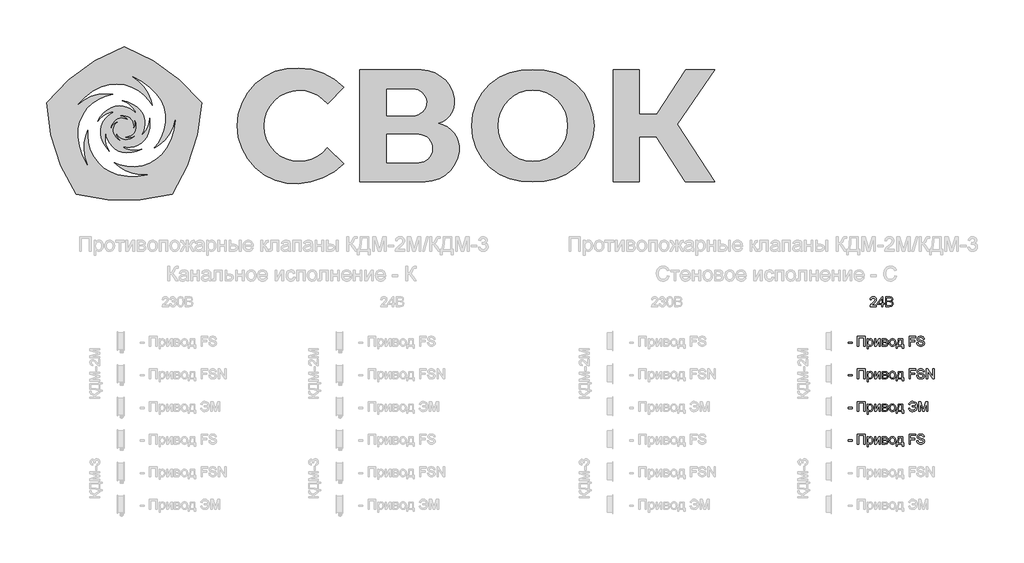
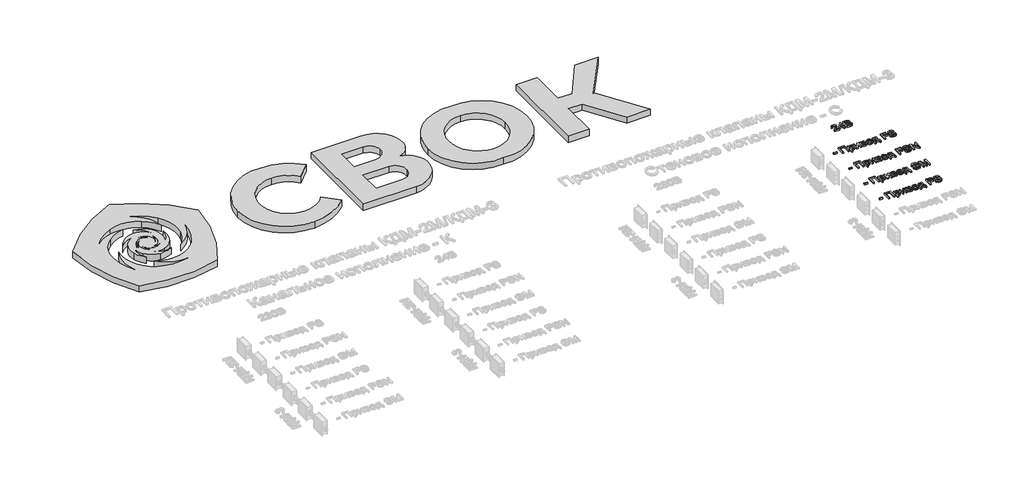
# One storey, part 23 of 23: 6 proxies.
"""IFC4 building model written with IfcOpenShell, lengths in millimetres."""

from ifc_helpers import new_model, si_unit, origin, origin_with_axes, place, context, project, spatial, polyline, outline, extrude, transform, mapped, element, save
from components import generic_models_e413d29a

model = new_model("IFC4")

# Units and contexts
model_context = context("Model", 3, world=origin())
ifc_project = project(units=[si_unit("LENGTHUNIT", "METRE", prefix="MILLI")], contexts=[model_context])

# Site, building, storey
site = spatial("IfcSite", under=ifc_project)
building = spatial("IfcBuilding", under=site)
storey = spatial("IfcBuildingStorey", under=building, Name="Этаж 01", Elevation=0.0)

# Proxies
placement = place(None, origin())
element("IfcBuildingElementProxy", 1, Name="300 мм Arial", ObjectType="300 мм Arial", at=placement, inside=storey, context=model_context, shape_type="SweptSolid", body=[
    extrude(outline(polyline([(24504.7738082, -4434.3206311), (24504.7738082, -4396.6495148), (24622.4960467, -4396.6495148), (24622.4960467, -4434.3206311), (24504.7738082, -4434.3206311)])), origin_with_axes(), (0.0, 0.0, 1.0), 50.0),
    extrude(outline(polyline([(24787.3071805, -4222.4206019), (25022.7516574, -4222.4206019), (25022.7516574, -4523.7895324), (24985.0805411, -4523.7895324), (24985.0805411, -4260.0917182), (24824.9782968, -4260.0917182), (24824.9782968, -4523.7895324), (24787.3071805, -4523.7895324), (24787.3071805, -4222.4206019)])), origin_with_axes(), (0.0, 0.0, 1.0), 50.0),
    extrude(outline(polyline([(25083.9672214, -4608.5495441), (25083.9672214, -4302.4717241), (25121.6383378, -4302.4717241), (25121.6383378, -4339.4070764), (25133.9255964, -4321.1877206), (25147.684383, -4308.173895), (25163.724038, -4300.3655996), (25182.8539017, -4297.7628345), (25208.3297299, -4301.4048663), (25230.6049847, -4312.3309615), (25248.7415671, -4329.8789327), (25261.8013779, -4353.3865922), (25269.6924467, -4381.1432887), (25272.322803, -4411.438371), (25269.3521559, -4443.6556368), (25260.4402145, -4472.469994), (25245.8720875, -4496.4191119), (25225.9328834, -4514.0406595), (25202.7103324, -4524.8839813), (25178.292165, -4528.4984219), (25160.9741201, -4526.0795978), (25145.5138792, -4518.8231254), (25132.2793245, -4507.869439), (25121.6383378, -4494.3589728), (25121.6383378, -4608.5495441), (25083.9672214, -4608.5495441)]), holes=[polyline([(25121.6383378, -4414.8964618), (25125.7126308, -4448.668029), (25137.9355101, -4472.286053), (25155.970925, -4486.1919925), (25177.4828246, -4490.8273056), (25199.3442122, -4486.0264456), (25217.8394795, -4471.6238655), (25230.4486349, -4447.1413187), (25234.6516867, -4412.1005586), (25230.5498024, -4378.5129325), (25218.2441497, -4354.5638146), (25200.236326, -4340.2164168), (25179.027929, -4335.4339508), (25157.7367585, -4340.5199194), (25139.0391561, -4355.7778252), (25125.9885423, -4380.7294215), (25121.6383378, -4414.8964618)])]), origin_with_axes(), (0.0, 0.0, 1.0), 50.0),
    extrude(outline(polyline([(25314.7028088, -4302.4717241), (25352.3739251, -4302.4717241), (25352.3739251, -4471.2559835), (25444.9330351, -4302.4717241), (25493.6406113, -4302.4717241), (25493.6406113, -4523.7895324), (25455.969495, -4523.7895324), (25455.969495, -4356.0353426), (25363.9989962, -4523.7895324), (25314.7028088, -4523.7895324), (25314.7028088, -4302.4717241)])), origin_with_axes(), (0.0, 0.0, 1.0), 50.0),
    extrude(outline(polyline([(25550.1472857, -4302.4717241), (25633.1414638, -4302.4717241), (25659.8221055, -4303.7317199), (25678.6484666, -4307.5117074), (25692.4992238, -4314.6486181), (25704.2530535, -4325.9793836), (25712.2820781, -4340.7406486), (25714.9584196, -4358.1690581), (25713.3397388, -4372.2129533), (25708.4836965, -4384.325468), (25700.3718985, -4394.5617845), (25688.9859507, -4402.9770852), (25702.9286783, -4410.8037746), (25714.296232, -4423.3945359), (25721.856207, -4439.7560876), (25724.3761986, -4458.8951484), (25717.993446, -4487.6083381), (25702.8183137, -4507.8234538), (25678.7956194, -4519.7980127), (25645.8701809, -4523.7895324), (25550.1472857, -4523.7895324), (25550.1472857, -4302.4717241)]), holes=[polyline([(25587.818402, -4486.1184161), (25634.0243806, -4486.1184161), (25659.2059032, -4484.4169618), (25675.0064349, -4479.3125992), (25683.4861149, -4470.0327758), (25686.7050823, -4455.8049397), (25685.0955986, -4446.3779635), (25680.2671474, -4437.6683573), (25672.8543252, -4430.8533433), (25663.4917284, -4427.110144), (25630.3455607, -4424.9028521), (25587.818402, -4424.9028521), (25587.818402, -4486.1184161)]), polyline([(25587.818402, -4387.2317358), (25625.04806, -4387.2317358), (25655.7662065, -4385.3187494), (25670.7022156, -4377.6668039), (25675.6410313, -4371.3392336), (25677.2873033, -4363.8344409), (25674.3994296, -4352.5956459), (25665.7358086, -4345.3667647), (25650.0824297, -4341.4488215), (25626.2252823, -4340.1428404), (25587.818402, -4340.1428404), (25587.818402, -4387.2317358)])]), origin_with_axes(), (0.0, 0.0, 1.0), 50.0),
    extrude(outline(polyline([(25762.047315, -4413.1306282), (25764.0844615, -4384.4680223), (25770.1959011, -4359.7693448), (25780.3816339, -4339.0345959), (25794.6416597, -4322.2637754), (25808.9982546, -4311.5446138), (25824.8447715, -4303.8880698), (25842.1812106, -4299.2941433), (25861.0075717, -4297.7628345), (25881.7906051, -4299.6275364), (25900.5824773, -4305.221642), (25917.3831882, -4314.5451513), (25932.1927377, -4327.5980643), (25944.2799605, -4343.9389227), (25952.9136911, -4363.126268), (25958.0939294, -4385.1601003), (25959.8206756, -4410.0404195), (25956.767255, -4448.0978119), (25947.6069933, -4477.068519), (25932.606605, -4498.7643596), (25912.0328044, -4514.9971527), (25887.5962429, -4525.1231046), (25861.0075717, -4528.4984219), (25839.9210355, -4526.6406178), (25820.9544194, -4521.0672056), (25804.1077233, -4511.7781852), (25789.3809472, -4498.7735567), (25777.4224831, -4482.2740492), (25768.880723, -4462.500392), (25763.755667, -4439.452585), (25762.047315, -4413.1306282)]), holes=[polyline([(25799.7184313, -4413.0570518), (25804.0778329, -4447.1505157), (25817.1560378, -4471.4399245), (25836.8377246, -4485.9804603), (25861.0075717, -4490.8273056), (25885.0670541, -4485.9528692), (25904.7119527, -4471.3295599), (25917.7901576, -4446.7182544), (25922.1495593, -4411.8798294), (25917.7625665, -4378.7796469), (25904.6015881, -4354.821332), (25884.9290984, -4340.2807961), (25861.0075717, -4335.4339508), (25836.8377246, -4340.262402), (25817.1560378, -4354.7477556), (25804.0778329, -4378.981982), (25799.7184313, -4413.0570518)])]), origin_with_axes(), (0.0, 0.0, 1.0), 50.0),
    extrude(outline(polyline([(26035.1629082, -4302.4717241), (26176.4295943, -4302.4717241), (26176.4295943, -4486.1184161), (26204.6829316, -4486.1184161), (26204.6829316, -4585.0050964), (26167.0118152, -4585.0050964), (26167.0118152, -4523.7895324), (26011.6184605, -4523.7895324), (26011.6184605, -4585.0050964), (25973.9473442, -4585.0050964), (25973.9473442, -4486.1184161), (25997.4917919, -4486.1184161), (26014.6075017, -4455.1887373), (26026.5912577, -4414.2710624), (26033.4430598, -4363.3653913), (26035.1629082, -4302.4717241)]), holes=[polyline([(26068.1251349, -4340.1428404), (26065.0349262, -4386.2660455), (26059.2959671, -4425.9697099), (26050.9082576, -4459.2538334), (26039.8717977, -4486.1184161), (26138.758478, -4486.1184161), (26138.758478, -4340.1428404), (26068.1251349, -4340.1428404)])]), origin_with_axes(), (0.0, 0.0, 1.0), 50.0),
    extrude(outline(polyline([(26369.4940654, -4523.7895324), (26369.4940654, -4222.4206019), (26571.9763155, -4222.4206019), (26571.9763155, -4260.0917182), (26407.1651817, -4260.0917182), (26407.1651817, -4349.5606195), (26548.4318678, -4349.5606195), (26548.4318678, -4387.2317358), (26407.1651817, -4387.2317358), (26407.1651817, -4523.7895324), (26369.4940654, -4523.7895324)])), origin_with_axes(), (0.0, 0.0, 1.0), 50.0),
    extrude(outline(polyline([(26609.6474318, -4420.1939625), (26647.3185481, -4420.1939625), (26651.6411616, -4441.0988569), (26659.458654, -4457.901867), (26671.6539421, -4471.2375894), (26689.1099428, -4481.7406203), (26710.4470985, -4488.5556343), (26734.2858518, -4490.8273056), (26755.2735196, -4489.1074573), (26773.6492253, -4483.9479123), (26788.539249, -4475.780932), (26799.0698712, -4465.0387777), (26805.3330621, -4452.7055339), (26807.4207924, -4439.7652847), (26805.857294, -4427.1561293), (26801.1667985, -4416.2576252), (26791.6386549, -4406.9594078), (26775.5622117, -4399.1511124), (26720.7110062, -4384.7669264), (26684.7045559, -4375.2479798), (26661.665946, -4366.1888856), (26642.9131613, -4353.5153509), (26629.6234242, -4338.1562776), (26621.7047642, -4320.4427595), (26619.0652109, -4300.7058905), (26622.3301636, -4278.6421678), (26632.1250217, -4258.0683673), (26648.1922679, -4240.6307607), (26670.2743846, -4227.97562), (26696.7802824, -4220.2776893), (26726.1188715, -4217.7117124), (26757.9038759, -4220.3972509), (26785.7157547, -4228.4538666), (26808.5612266, -4241.7160126), (26825.4470102, -4260.0181418), (26836.1339822, -4282.2198202), (26840.3830192, -4307.1806136), (26802.7119029, -4307.1806136), (26795.7957214, -4284.7030237), (26781.3747472, -4268.4794277), (26758.841975, -4258.6569784), (26727.5903995, -4255.3828287), (26695.60306, -4258.6201902), (26673.658899, -4268.3322749), (26660.9669702, -4282.6244904), (26656.7363272, -4299.6022445), (26659.7345655, -4314.078401), (26668.7292803, -4325.7218662), (26689.9928596, -4336.1329266), (26730.2391499, -4346.7647163), (26771.7730271, -4356.8630771), (26796.8993674, -4365.6738508), (26818.3744789, -4379.340667), (26833.3564731, -4396.2080564), (26842.1580498, -4416.0920783), (26845.0919088, -4438.8087915), (26841.7165914, -4462.0313424), (26831.5906395, -4483.8743359), (26815.1279202, -4502.6731058), (26792.7423008, -4516.7629863), (26765.8225358, -4525.564563), (26735.7573798, -4528.4984219), (26698.8496186, -4525.3346367), (26668.4717629, -4515.8432813), (26644.2743246, -4499.9875673), (26625.907816, -4477.7307066), (26614.1171981, -4450.6178035), (26609.6474318, -4420.1939625)])), origin_with_axes(), (0.0, 0.0, 1.0), 50.0),
])
element("IfcBuildingElementProxy", 2, Name="300 мм Arial", ObjectType="300 мм Arial", at=placement, inside=storey, context=model_context, shape_type="SweptSolid", body=[
    extrude(outline(polyline([(24504.7738082, -5434.3206311), (24504.7738082, -5396.6495148), (24622.4960467, -5396.6495148), (24622.4960467, -5434.3206311), (24504.7738082, -5434.3206311)])), origin_with_axes(), (0.0, 0.0, 1.0), 50.0),
    extrude(outline(polyline([(24787.3071805, -5222.4206019), (25022.7516574, -5222.4206019), (25022.7516574, -5523.7895324), (24985.0805411, -5523.7895324), (24985.0805411, -5260.0917182), (24824.9782968, -5260.0917182), (24824.9782968, -5523.7895324), (24787.3071805, -5523.7895324), (24787.3071805, -5222.4206019)])), origin_with_axes(), (0.0, 0.0, 1.0), 50.0),
    extrude(outline(polyline([(25083.9672214, -5608.5495441), (25083.9672214, -5302.4717241), (25121.6383378, -5302.4717241), (25121.6383378, -5339.4070764), (25133.9255964, -5321.1877206), (25147.684383, -5308.173895), (25163.724038, -5300.3655996), (25182.8539017, -5297.7628345), (25208.3297299, -5301.4048663), (25230.6049847, -5312.3309615), (25248.7415671, -5329.8789327), (25261.8013779, -5353.3865922), (25269.6924467, -5381.1432887), (25272.322803, -5411.438371), (25269.3521559, -5443.6556368), (25260.4402145, -5472.469994), (25245.8720875, -5496.4191119), (25225.9328834, -5514.0406595), (25202.7103324, -5524.8839813), (25178.292165, -5528.4984219), (25160.9741201, -5526.0795978), (25145.5138792, -5518.8231254), (25132.2793245, -5507.869439), (25121.6383378, -5494.3589728), (25121.6383378, -5608.5495441), (25083.9672214, -5608.5495441)]), holes=[polyline([(25121.6383378, -5414.8964618), (25125.7126308, -5448.668029), (25137.9355101, -5472.286053), (25155.970925, -5486.1919925), (25177.4828246, -5490.8273056), (25199.3442122, -5486.0264456), (25217.8394795, -5471.6238655), (25230.4486349, -5447.1413187), (25234.6516867, -5412.1005586), (25230.5498024, -5378.5129325), (25218.2441497, -5354.5638146), (25200.236326, -5340.2164168), (25179.027929, -5335.4339508), (25157.7367585, -5340.5199194), (25139.0391561, -5355.7778252), (25125.9885423, -5380.7294215), (25121.6383378, -5414.8964618)])]), origin_with_axes(), (0.0, 0.0, 1.0), 50.0),
    extrude(outline(polyline([(25314.7028088, -5302.4717241), (25352.3739251, -5302.4717241), (25352.3739251, -5471.2559835), (25444.9330351, -5302.4717241), (25493.6406113, -5302.4717241), (25493.6406113, -5523.7895324), (25455.969495, -5523.7895324), (25455.969495, -5356.0353426), (25363.9989962, -5523.7895324), (25314.7028088, -5523.7895324), (25314.7028088, -5302.4717241)])), origin_with_axes(), (0.0, 0.0, 1.0), 50.0),
    extrude(outline(polyline([(25550.1472857, -5302.4717241), (25633.1414638, -5302.4717241), (25659.8221055, -5303.7317199), (25678.6484666, -5307.5117074), (25692.4992238, -5314.6486181), (25704.2530535, -5325.9793836), (25712.2820781, -5340.7406486), (25714.9584196, -5358.1690581), (25713.3397388, -5372.2129533), (25708.4836965, -5384.325468), (25700.3718985, -5394.5617845), (25688.9859507, -5402.9770852), (25702.9286783, -5410.8037746), (25714.296232, -5423.3945359), (25721.856207, -5439.7560876), (25724.3761986, -5458.8951484), (25717.993446, -5487.6083381), (25702.8183137, -5507.8234538), (25678.7956194, -5519.7980127), (25645.8701809, -5523.7895324), (25550.1472857, -5523.7895324), (25550.1472857, -5302.4717241)]), holes=[polyline([(25587.818402, -5486.1184161), (25634.0243806, -5486.1184161), (25659.2059032, -5484.4169618), (25675.0064349, -5479.3125992), (25683.4861149, -5470.0327758), (25686.7050823, -5455.8049397), (25685.0955986, -5446.3779635), (25680.2671474, -5437.6683573), (25672.8543252, -5430.8533433), (25663.4917284, -5427.110144), (25630.3455607, -5424.9028521), (25587.818402, -5424.9028521), (25587.818402, -5486.1184161)]), polyline([(25587.818402, -5387.2317358), (25625.04806, -5387.2317358), (25655.7662065, -5385.3187494), (25670.7022156, -5377.6668039), (25675.6410313, -5371.3392336), (25677.2873033, -5363.8344409), (25674.3994296, -5352.5956459), (25665.7358086, -5345.3667647), (25650.0824297, -5341.4488215), (25626.2252823, -5340.1428404), (25587.818402, -5340.1428404), (25587.818402, -5387.2317358)])]), origin_with_axes(), (0.0, 0.0, 1.0), 50.0),
    extrude(outline(polyline([(25762.047315, -5413.1306282), (25764.0844615, -5384.4680223), (25770.1959011, -5359.7693448), (25780.3816339, -5339.0345959), (25794.6416597, -5322.2637754), (25808.9982546, -5311.5446138), (25824.8447715, -5303.8880698), (25842.1812106, -5299.2941433), (25861.0075717, -5297.7628345), (25881.7906051, -5299.6275364), (25900.5824773, -5305.221642), (25917.3831882, -5314.5451513), (25932.1927377, -5327.5980643), (25944.2799605, -5343.9389227), (25952.9136911, -5363.126268), (25958.0939294, -5385.1601003), (25959.8206756, -5410.0404195), (25956.767255, -5448.0978119), (25947.6069933, -5477.068519), (25932.606605, -5498.7643596), (25912.0328044, -5514.9971527), (25887.5962429, -5525.1231046), (25861.0075717, -5528.4984219), (25839.9210355, -5526.6406178), (25820.9544194, -5521.0672056), (25804.1077233, -5511.7781852), (25789.3809472, -5498.7735567), (25777.4224831, -5482.2740492), (25768.880723, -5462.500392), (25763.755667, -5439.452585), (25762.047315, -5413.1306282)]), holes=[polyline([(25799.7184313, -5413.0570518), (25804.0778329, -5447.1505157), (25817.1560378, -5471.4399245), (25836.8377246, -5485.9804603), (25861.0075717, -5490.8273056), (25885.0670541, -5485.9528692), (25904.7119527, -5471.3295599), (25917.7901576, -5446.7182544), (25922.1495593, -5411.8798294), (25917.7625665, -5378.7796469), (25904.6015881, -5354.821332), (25884.9290984, -5340.2807961), (25861.0075717, -5335.4339508), (25836.8377246, -5340.262402), (25817.1560378, -5354.7477556), (25804.0778329, -5378.981982), (25799.7184313, -5413.0570518)])]), origin_with_axes(), (0.0, 0.0, 1.0), 50.0),
    extrude(outline(polyline([(26035.1629082, -5302.4717241), (26176.4295943, -5302.4717241), (26176.4295943, -5486.1184161), (26204.6829316, -5486.1184161), (26204.6829316, -5585.0050964), (26167.0118152, -5585.0050964), (26167.0118152, -5523.7895324), (26011.6184605, -5523.7895324), (26011.6184605, -5585.0050964), (25973.9473442, -5585.0050964), (25973.9473442, -5486.1184161), (25997.4917919, -5486.1184161), (26014.6075017, -5455.1887373), (26026.5912577, -5414.2710624), (26033.4430598, -5363.3653913), (26035.1629082, -5302.4717241)]), holes=[polyline([(26068.1251349, -5340.1428404), (26065.0349262, -5386.2660455), (26059.2959671, -5425.9697099), (26050.9082576, -5459.2538334), (26039.8717977, -5486.1184161), (26138.758478, -5486.1184161), (26138.758478, -5340.1428404), (26068.1251349, -5340.1428404)])]), origin_with_axes(), (0.0, 0.0, 1.0), 50.0),
    extrude(outline(polyline([(26369.4940654, -5523.7895324), (26369.4940654, -5222.4206019), (26571.9763155, -5222.4206019), (26571.9763155, -5260.0917182), (26407.1651817, -5260.0917182), (26407.1651817, -5349.5606195), (26548.4318678, -5349.5606195), (26548.4318678, -5387.2317358), (26407.1651817, -5387.2317358), (26407.1651817, -5523.7895324), (26369.4940654, -5523.7895324)])), origin_with_axes(), (0.0, 0.0, 1.0), 50.0),
    extrude(outline(polyline([(26609.6474318, -5420.1939625), (26647.3185481, -5420.1939625), (26651.6411616, -5441.0988569), (26659.458654, -5457.901867), (26671.6539421, -5471.2375894), (26689.1099428, -5481.7406203), (26710.4470985, -5488.5556343), (26734.2858518, -5490.8273056), (26755.2735196, -5489.1074573), (26773.6492253, -5483.9479123), (26788.539249, -5475.780932), (26799.0698712, -5465.0387777), (26805.3330621, -5452.7055339), (26807.4207924, -5439.7652847), (26805.857294, -5427.1561293), (26801.1667985, -5416.2576252), (26791.6386549, -5406.9594078), (26775.5622117, -5399.1511124), (26720.7110062, -5384.7669264), (26684.7045559, -5375.2479798), (26661.665946, -5366.1888856), (26642.9131613, -5353.5153509), (26629.6234242, -5338.1562776), (26621.7047642, -5320.4427595), (26619.0652109, -5300.7058905), (26622.3301636, -5278.6421678), (26632.1250217, -5258.0683673), (26648.1922679, -5240.6307607), (26670.2743846, -5227.97562), (26696.7802824, -5220.2776893), (26726.1188715, -5217.7117124), (26757.9038759, -5220.3972509), (26785.7157547, -5228.4538666), (26808.5612266, -5241.7160126), (26825.4470102, -5260.0181418), (26836.1339822, -5282.2198202), (26840.3830192, -5307.1806136), (26802.7119029, -5307.1806136), (26795.7957214, -5284.7030237), (26781.3747472, -5268.4794277), (26758.841975, -5258.6569784), (26727.5903995, -5255.3828287), (26695.60306, -5258.6201902), (26673.658899, -5268.3322749), (26660.9669702, -5282.6244904), (26656.7363272, -5299.6022445), (26659.7345655, -5314.078401), (26668.7292803, -5325.7218662), (26689.9928596, -5336.1329266), (26730.2391499, -5346.7647163), (26771.7730271, -5356.8630771), (26796.8993674, -5365.6738508), (26818.3744789, -5379.340667), (26833.3564731, -5396.2080564), (26842.1580498, -5416.0920783), (26845.0919088, -5438.8087915), (26841.7165914, -5462.0313424), (26831.5906395, -5483.8743359), (26815.1279202, -5502.6731058), (26792.7423008, -5516.7629863), (26765.8225358, -5525.564563), (26735.7573798, -5528.4984219), (26698.8496186, -5525.3346367), (26668.4717629, -5515.8432813), (26644.2743246, -5499.9875673), (26625.907816, -5477.7307066), (26614.1171981, -5450.6178035), (26609.6474318, -5420.1939625)])), origin_with_axes(), (0.0, 0.0, 1.0), 50.0),
    extrude(outline(polyline([(26901.5985832, -5523.7895324), (26901.5985832, -5222.4206019), (26941.9184499, -5222.4206019), (27099.3719438, -5461.1760168), (27099.3719438, -5222.4206019), (27137.0430601, -5222.4206019), (27137.0430601, -5523.7895324), (27096.7231935, -5523.7895324), (26939.2696995, -5284.9605411), (26939.2696995, -5523.7895324), (26901.5985832, -5523.7895324)])), origin_with_axes(), (0.0, 0.0, 1.0), 50.0),
])
element("IfcBuildingElementProxy", 3, Name="300 мм Arial", ObjectType="300 мм Arial", at=placement, inside=storey, context=model_context, shape_type="SweptSolid", body=[
    extrude(outline(polyline([(24504.7738082, -6434.3206311), (24504.7738082, -6396.6495148), (24622.4960467, -6396.6495148), (24622.4960467, -6434.3206311), (24504.7738082, -6434.3206311)])), origin_with_axes(), (0.0, 0.0, 1.0), 50.0),
    extrude(outline(polyline([(24787.3071805, -6222.4206019), (25022.7516574, -6222.4206019), (25022.7516574, -6523.7895324), (24985.0805411, -6523.7895324), (24985.0805411, -6260.0917182), (24824.9782968, -6260.0917182), (24824.9782968, -6523.7895324), (24787.3071805, -6523.7895324), (24787.3071805, -6222.4206019)])), origin_with_axes(), (0.0, 0.0, 1.0), 50.0),
    extrude(outline(polyline([(25083.9672214, -6608.5495441), (25083.9672214, -6302.4717241), (25121.6383378, -6302.4717241), (25121.6383378, -6339.4070764), (25133.9255964, -6321.1877206), (25147.684383, -6308.173895), (25163.724038, -6300.3655996), (25182.8539017, -6297.7628345), (25208.3297299, -6301.4048663), (25230.6049847, -6312.3309615), (25248.7415671, -6329.8789327), (25261.8013779, -6353.3865922), (25269.6924467, -6381.1432887), (25272.322803, -6411.438371), (25269.3521559, -6443.6556368), (25260.4402145, -6472.469994), (25245.8720875, -6496.4191119), (25225.9328834, -6514.0406595), (25202.7103324, -6524.8839813), (25178.292165, -6528.4984219), (25160.9741201, -6526.0795978), (25145.5138792, -6518.8231254), (25132.2793245, -6507.869439), (25121.6383378, -6494.3589728), (25121.6383378, -6608.5495441), (25083.9672214, -6608.5495441)]), holes=[polyline([(25121.6383378, -6414.8964618), (25125.7126308, -6448.668029), (25137.9355101, -6472.286053), (25155.970925, -6486.1919925), (25177.4828246, -6490.8273056), (25199.3442122, -6486.0264456), (25217.8394795, -6471.6238655), (25230.4486349, -6447.1413187), (25234.6516867, -6412.1005586), (25230.5498024, -6378.5129325), (25218.2441497, -6354.5638146), (25200.236326, -6340.2164168), (25179.027929, -6335.4339508), (25157.7367585, -6340.5199194), (25139.0391561, -6355.7778252), (25125.9885423, -6380.7294215), (25121.6383378, -6414.8964618)])]), origin_with_axes(), (0.0, 0.0, 1.0), 50.0),
    extrude(outline(polyline([(25314.7028088, -6302.4717241), (25352.3739251, -6302.4717241), (25352.3739251, -6471.2559835), (25444.9330351, -6302.4717241), (25493.6406113, -6302.4717241), (25493.6406113, -6523.7895324), (25455.969495, -6523.7895324), (25455.969495, -6356.0353426), (25363.9989962, -6523.7895324), (25314.7028088, -6523.7895324), (25314.7028088, -6302.4717241)])), origin_with_axes(), (0.0, 0.0, 1.0), 50.0),
    extrude(outline(polyline([(25550.1472857, -6302.4717241), (25633.1414638, -6302.4717241), (25659.8221055, -6303.7317199), (25678.6484666, -6307.5117074), (25692.4992238, -6314.6486181), (25704.2530535, -6325.9793836), (25712.2820781, -6340.7406486), (25714.9584196, -6358.1690581), (25713.3397388, -6372.2129533), (25708.4836965, -6384.325468), (25700.3718985, -6394.5617845), (25688.9859507, -6402.9770852), (25702.9286783, -6410.8037746), (25714.296232, -6423.3945359), (25721.856207, -6439.7560876), (25724.3761986, -6458.8951484), (25717.993446, -6487.6083381), (25702.8183137, -6507.8234538), (25678.7956194, -6519.7980127), (25645.8701809, -6523.7895324), (25550.1472857, -6523.7895324), (25550.1472857, -6302.4717241)]), holes=[polyline([(25587.818402, -6486.1184161), (25634.0243806, -6486.1184161), (25659.2059032, -6484.4169618), (25675.0064349, -6479.3125992), (25683.4861149, -6470.0327758), (25686.7050823, -6455.8049397), (25685.0955986, -6446.3779635), (25680.2671474, -6437.6683573), (25672.8543252, -6430.8533433), (25663.4917284, -6427.110144), (25630.3455607, -6424.9028521), (25587.818402, -6424.9028521), (25587.818402, -6486.1184161)]), polyline([(25587.818402, -6387.2317358), (25625.04806, -6387.2317358), (25655.7662065, -6385.3187494), (25670.7022156, -6377.6668039), (25675.6410313, -6371.3392336), (25677.2873033, -6363.8344409), (25674.3994296, -6352.5956459), (25665.7358086, -6345.3667647), (25650.0824297, -6341.4488215), (25626.2252823, -6340.1428404), (25587.818402, -6340.1428404), (25587.818402, -6387.2317358)])]), origin_with_axes(), (0.0, 0.0, 1.0), 50.0),
    extrude(outline(polyline([(25762.047315, -6413.1306282), (25764.0844615, -6384.4680223), (25770.1959011, -6359.7693448), (25780.3816339, -6339.0345959), (25794.6416597, -6322.2637754), (25808.9982546, -6311.5446138), (25824.8447715, -6303.8880698), (25842.1812106, -6299.2941433), (25861.0075717, -6297.7628345), (25881.7906051, -6299.6275364), (25900.5824773, -6305.221642), (25917.3831882, -6314.5451513), (25932.1927377, -6327.5980643), (25944.2799605, -6343.9389227), (25952.9136911, -6363.126268), (25958.0939294, -6385.1601003), (25959.8206756, -6410.0404195), (25956.767255, -6448.0978119), (25947.6069933, -6477.068519), (25932.606605, -6498.7643596), (25912.0328044, -6514.9971527), (25887.5962429, -6525.1231046), (25861.0075717, -6528.4984219), (25839.9210355, -6526.6406178), (25820.9544194, -6521.0672056), (25804.1077233, -6511.7781852), (25789.3809472, -6498.7735567), (25777.4224831, -6482.2740492), (25768.880723, -6462.500392), (25763.755667, -6439.452585), (25762.047315, -6413.1306282)]), holes=[polyline([(25799.7184313, -6413.0570518), (25804.0778329, -6447.1505157), (25817.1560378, -6471.4399245), (25836.8377246, -6485.9804603), (25861.0075717, -6490.8273056), (25885.0670541, -6485.9528692), (25904.7119527, -6471.3295599), (25917.7901576, -6446.7182544), (25922.1495593, -6411.8798294), (25917.7625665, -6378.7796469), (25904.6015881, -6354.821332), (25884.9290984, -6340.2807961), (25861.0075717, -6335.4339508), (25836.8377246, -6340.262402), (25817.1560378, -6354.7477556), (25804.0778329, -6378.981982), (25799.7184313, -6413.0570518)])]), origin_with_axes(), (0.0, 0.0, 1.0), 50.0),
    extrude(outline(polyline([(26035.1629082, -6302.4717241), (26176.4295943, -6302.4717241), (26176.4295943, -6486.1184161), (26204.6829316, -6486.1184161), (26204.6829316, -6585.0050964), (26167.0118152, -6585.0050964), (26167.0118152, -6523.7895324), (26011.6184605, -6523.7895324), (26011.6184605, -6585.0050964), (25973.9473442, -6585.0050964), (25973.9473442, -6486.1184161), (25997.4917919, -6486.1184161), (26014.6075017, -6455.1887373), (26026.5912577, -6414.2710624), (26033.4430598, -6363.3653913), (26035.1629082, -6302.4717241)]), holes=[polyline([(26068.1251349, -6340.1428404), (26065.0349262, -6386.2660455), (26059.2959671, -6425.9697099), (26050.9082576, -6459.2538334), (26039.8717977, -6486.1184161), (26138.758478, -6486.1184161), (26138.758478, -6340.1428404), (26068.1251349, -6340.1428404)])]), origin_with_axes(), (0.0, 0.0, 1.0), 50.0),
    extrude(outline(polyline([(26468.3807457, -6349.5606195), (26581.3940946, -6349.5606195), (26578.6947605, -6329.0121108), (26573.0983556, -6310.7030837), (26564.6048801, -6294.6335383), (26553.2143338, -6280.8034746), (26539.1520445, -6269.681942), (26522.64334, -6261.7379902), (26503.6882202, -6256.9716191), (26482.2866851, -6255.3828287), (26451.8674426, -6259.2088014), (26427.6378147, -6270.6867197), (26409.5978014, -6289.8165834), (26397.7474026, -6316.5983927), (26360.0762863, -6307.1806136), (26366.8637091, -6287.2873947), (26376.1895177, -6269.6934383), (26388.053712, -6254.3987444), (26402.4562922, -6241.4033129), (26419.0799598, -6231.0382377), (26437.6074168, -6223.6346125), (26458.0386631, -6219.1924374), (26480.3736987, -6217.7117124), (26521.4477235, -6223.1471689), (26556.3781189, -6239.4535383), (26584.1256184, -6264.2119966), (26603.6509553, -6295.0037196), (26615.211647, -6330.6054997), (26619.0652109, -6369.7941292), (26617.8925871, -6402.0136942), (26612.0938471, -6431.5707132), (26601.6689911, -6458.4651863), (26586.6180189, -6482.6971135), (26566.9777189, -6502.7351859), (26542.7848792, -6517.0480948), (26514.0394998, -6525.6358401), (26480.7415807, -6528.4984219), (26457.0545788, -6526.9533175), (26435.6576422, -6522.3180044), (26416.5507711, -6514.5924825), (26399.7339654, -6503.7767518), (26385.2072251, -6489.8708124), (26372.9705502, -6472.8746642), (26363.0239408, -6452.7883073), (26355.3673968, -6429.6117416), (26393.0385131, -6420.1939625), (26405.7672301, -6451.0960501), (26425.3385523, -6473.1689698), (26451.7524795, -6486.4127217), (26485.0090119, -6490.8273056), (26504.7182898, -6489.0936617), (26522.5697636, -6483.89273), (26538.5634333, -6475.2245105), (26552.699299, -6463.0890032), (26564.3979464, -6447.9460605), (26573.0799615, -6430.2555351), (26578.7453442, -6410.0174268), (26581.3940946, -6387.2317358), (26468.3807457, -6387.2317358), (26468.3807457, -6349.5606195)])), origin_with_axes(), (0.0, 0.0, 1.0), 50.0),
    extrude(outline(polyline([(26670.8629958, -6523.7895324), (26670.8629958, -6222.4206019), (26735.6838034, -6222.4206019), (26797.3408258, -6434.8356659), (26809.7752372, -6479.2022346), (26823.2397182, -6431.156846), (26883.866671, -6222.4206019), (26948.6874786, -6222.4206019), (26948.6874786, -6523.7895324), (26911.0163623, -6523.7895324), (26911.0163623, -6260.0917182), (26835.3062477, -6523.7895324), (26784.2442268, -6523.7895324), (26708.5341121, -6260.0917182), (26708.5341121, -6523.7895324), (26670.8629958, -6523.7895324)])), origin_with_axes(), (0.0, 0.0, 1.0), 50.0),
])
element("IfcBuildingElementProxy", 4, Name="300 мм Arial", ObjectType="300 мм Arial", at=placement, inside=storey, context=model_context, shape_type="SweptSolid", body=[
    extrude(outline(polyline([(24504.7738082, -7434.3206311), (24504.7738082, -7396.6495148), (24622.4960467, -7396.6495148), (24622.4960467, -7434.3206311), (24504.7738082, -7434.3206311)])), origin_with_axes(), (0.0, 0.0, 1.0), 50.0),
    extrude(outline(polyline([(24787.3071805, -7222.4206019), (25022.7516574, -7222.4206019), (25022.7516574, -7523.7895324), (24985.0805411, -7523.7895324), (24985.0805411, -7260.0917182), (24824.9782968, -7260.0917182), (24824.9782968, -7523.7895324), (24787.3071805, -7523.7895324), (24787.3071805, -7222.4206019)])), origin_with_axes(), (0.0, 0.0, 1.0), 50.0),
    extrude(outline(polyline([(25083.9672214, -7608.5495441), (25083.9672214, -7302.4717241), (25121.6383378, -7302.4717241), (25121.6383378, -7339.4070764), (25133.9255964, -7321.1877206), (25147.684383, -7308.173895), (25163.724038, -7300.3655996), (25182.8539017, -7297.7628345), (25208.3297299, -7301.4048663), (25230.6049847, -7312.3309615), (25248.7415671, -7329.8789327), (25261.8013779, -7353.3865922), (25269.6924467, -7381.1432887), (25272.322803, -7411.438371), (25269.3521559, -7443.6556368), (25260.4402145, -7472.469994), (25245.8720875, -7496.4191119), (25225.9328834, -7514.0406595), (25202.7103324, -7524.8839813), (25178.292165, -7528.4984219), (25160.9741201, -7526.0795978), (25145.5138792, -7518.8231254), (25132.2793245, -7507.869439), (25121.6383378, -7494.3589728), (25121.6383378, -7608.5495441), (25083.9672214, -7608.5495441)]), holes=[polyline([(25121.6383378, -7414.8964618), (25125.7126308, -7448.668029), (25137.9355101, -7472.286053), (25155.970925, -7486.1919925), (25177.4828246, -7490.8273056), (25199.3442122, -7486.0264456), (25217.8394795, -7471.6238655), (25230.4486349, -7447.1413187), (25234.6516867, -7412.1005586), (25230.5498024, -7378.5129325), (25218.2441497, -7354.5638146), (25200.236326, -7340.2164168), (25179.027929, -7335.4339508), (25157.7367585, -7340.5199194), (25139.0391561, -7355.7778252), (25125.9885423, -7380.7294215), (25121.6383378, -7414.8964618)])]), origin_with_axes(), (0.0, 0.0, 1.0), 50.0),
    extrude(outline(polyline([(25314.7028088, -7302.4717241), (25352.3739251, -7302.4717241), (25352.3739251, -7471.2559835), (25444.9330351, -7302.4717241), (25493.6406113, -7302.4717241), (25493.6406113, -7523.7895324), (25455.969495, -7523.7895324), (25455.969495, -7356.0353426), (25363.9989962, -7523.7895324), (25314.7028088, -7523.7895324), (25314.7028088, -7302.4717241)])), origin_with_axes(), (0.0, 0.0, 1.0), 50.0),
    extrude(outline(polyline([(25550.1472857, -7302.4717241), (25633.1414638, -7302.4717241), (25659.8221055, -7303.7317199), (25678.6484666, -7307.5117074), (25692.4992238, -7314.6486181), (25704.2530535, -7325.9793836), (25712.2820781, -7340.7406486), (25714.9584196, -7358.1690581), (25713.3397388, -7372.2129533), (25708.4836965, -7384.325468), (25700.3718985, -7394.5617845), (25688.9859507, -7402.9770852), (25702.9286783, -7410.8037746), (25714.296232, -7423.3945359), (25721.856207, -7439.7560876), (25724.3761986, -7458.8951484), (25717.993446, -7487.6083381), (25702.8183137, -7507.8234538), (25678.7956194, -7519.7980127), (25645.8701809, -7523.7895324), (25550.1472857, -7523.7895324), (25550.1472857, -7302.4717241)]), holes=[polyline([(25587.818402, -7486.1184161), (25634.0243806, -7486.1184161), (25659.2059032, -7484.4169618), (25675.0064349, -7479.3125992), (25683.4861149, -7470.0327758), (25686.7050823, -7455.8049397), (25685.0955986, -7446.3779635), (25680.2671474, -7437.6683573), (25672.8543252, -7430.8533433), (25663.4917284, -7427.110144), (25630.3455607, -7424.9028521), (25587.818402, -7424.9028521), (25587.818402, -7486.1184161)]), polyline([(25587.818402, -7387.2317358), (25625.04806, -7387.2317358), (25655.7662065, -7385.3187494), (25670.7022156, -7377.6668039), (25675.6410313, -7371.3392336), (25677.2873033, -7363.8344409), (25674.3994296, -7352.5956459), (25665.7358086, -7345.3667647), (25650.0824297, -7341.4488215), (25626.2252823, -7340.1428404), (25587.818402, -7340.1428404), (25587.818402, -7387.2317358)])]), origin_with_axes(), (0.0, 0.0, 1.0), 50.0),
    extrude(outline(polyline([(25762.047315, -7413.1306282), (25764.0844615, -7384.4680223), (25770.1959011, -7359.7693448), (25780.3816339, -7339.0345959), (25794.6416597, -7322.2637754), (25808.9982546, -7311.5446138), (25824.8447715, -7303.8880698), (25842.1812106, -7299.2941433), (25861.0075717, -7297.7628345), (25881.7906051, -7299.6275364), (25900.5824773, -7305.221642), (25917.3831882, -7314.5451513), (25932.1927377, -7327.5980643), (25944.2799605, -7343.9389227), (25952.9136911, -7363.126268), (25958.0939294, -7385.1601003), (25959.8206756, -7410.0404195), (25956.767255, -7448.0978119), (25947.6069933, -7477.068519), (25932.606605, -7498.7643596), (25912.0328044, -7514.9971527), (25887.5962429, -7525.1231046), (25861.0075717, -7528.4984219), (25839.9210355, -7526.6406178), (25820.9544194, -7521.0672056), (25804.1077233, -7511.7781852), (25789.3809472, -7498.7735567), (25777.4224831, -7482.2740492), (25768.880723, -7462.500392), (25763.755667, -7439.452585), (25762.047315, -7413.1306282)]), holes=[polyline([(25799.7184313, -7413.0570518), (25804.0778329, -7447.1505157), (25817.1560378, -7471.4399245), (25836.8377246, -7485.9804603), (25861.0075717, -7490.8273056), (25885.0670541, -7485.9528692), (25904.7119527, -7471.3295599), (25917.7901576, -7446.7182544), (25922.1495593, -7411.8798294), (25917.7625665, -7378.7796469), (25904.6015881, -7354.821332), (25884.9290984, -7340.2807961), (25861.0075717, -7335.4339508), (25836.8377246, -7340.262402), (25817.1560378, -7354.7477556), (25804.0778329, -7378.981982), (25799.7184313, -7413.0570518)])]), origin_with_axes(), (0.0, 0.0, 1.0), 50.0),
    extrude(outline(polyline([(26035.1629082, -7302.4717241), (26176.4295943, -7302.4717241), (26176.4295943, -7486.1184161), (26204.6829316, -7486.1184161), (26204.6829316, -7585.0050964), (26167.0118152, -7585.0050964), (26167.0118152, -7523.7895324), (26011.6184605, -7523.7895324), (26011.6184605, -7585.0050964), (25973.9473442, -7585.0050964), (25973.9473442, -7486.1184161), (25997.4917919, -7486.1184161), (26014.6075017, -7455.1887373), (26026.5912577, -7414.2710624), (26033.4430598, -7363.3653913), (26035.1629082, -7302.4717241)]), holes=[polyline([(26068.1251349, -7340.1428404), (26065.0349262, -7386.2660455), (26059.2959671, -7425.9697099), (26050.9082576, -7459.2538334), (26039.8717977, -7486.1184161), (26138.758478, -7486.1184161), (26138.758478, -7340.1428404), (26068.1251349, -7340.1428404)])]), origin_with_axes(), (0.0, 0.0, 1.0), 50.0),
    extrude(outline(polyline([(26369.4940654, -7523.7895324), (26369.4940654, -7222.4206019), (26571.9763155, -7222.4206019), (26571.9763155, -7260.0917182), (26407.1651817, -7260.0917182), (26407.1651817, -7349.5606195), (26548.4318678, -7349.5606195), (26548.4318678, -7387.2317358), (26407.1651817, -7387.2317358), (26407.1651817, -7523.7895324), (26369.4940654, -7523.7895324)])), origin_with_axes(), (0.0, 0.0, 1.0), 50.0),
    extrude(outline(polyline([(26609.6474318, -7420.1939625), (26647.3185481, -7420.1939625), (26651.6411616, -7441.0988569), (26659.458654, -7457.901867), (26671.6539421, -7471.2375894), (26689.1099428, -7481.7406203), (26710.4470985, -7488.5556343), (26734.2858518, -7490.8273056), (26755.2735196, -7489.1074573), (26773.6492253, -7483.9479123), (26788.539249, -7475.780932), (26799.0698712, -7465.0387777), (26805.3330621, -7452.7055339), (26807.4207924, -7439.7652847), (26805.857294, -7427.1561293), (26801.1667985, -7416.2576252), (26791.6386549, -7406.9594078), (26775.5622117, -7399.1511124), (26720.7110062, -7384.7669264), (26684.7045559, -7375.2479798), (26661.665946, -7366.1888856), (26642.9131613, -7353.5153509), (26629.6234242, -7338.1562776), (26621.7047642, -7320.4427595), (26619.0652109, -7300.7058905), (26622.3301636, -7278.6421678), (26632.1250217, -7258.0683673), (26648.1922679, -7240.6307607), (26670.2743846, -7227.97562), (26696.7802824, -7220.2776893), (26726.1188715, -7217.7117124), (26757.9038759, -7220.3972509), (26785.7157547, -7228.4538666), (26808.5612266, -7241.7160126), (26825.4470102, -7260.0181418), (26836.1339822, -7282.2198202), (26840.3830192, -7307.1806136), (26802.7119029, -7307.1806136), (26795.7957214, -7284.7030237), (26781.3747472, -7268.4794277), (26758.841975, -7258.6569784), (26727.5903995, -7255.3828287), (26695.60306, -7258.6201902), (26673.658899, -7268.3322749), (26660.9669702, -7282.6244904), (26656.7363272, -7299.6022445), (26659.7345655, -7314.078401), (26668.7292803, -7325.7218662), (26689.9928596, -7336.1329266), (26730.2391499, -7346.7647163), (26771.7730271, -7356.8630771), (26796.8993674, -7365.6738508), (26818.3744789, -7379.340667), (26833.3564731, -7396.2080564), (26842.1580498, -7416.0920783), (26845.0919088, -7438.8087915), (26841.7165914, -7462.0313424), (26831.5906395, -7483.8743359), (26815.1279202, -7502.6731058), (26792.7423008, -7516.7629863), (26765.8225358, -7525.564563), (26735.7573798, -7528.4984219), (26698.8496186, -7525.3346367), (26668.4717629, -7515.8432813), (26644.2743246, -7499.9875673), (26625.907816, -7477.7307066), (26614.1171981, -7450.6178035), (26609.6474318, -7420.1939625)])), origin_with_axes(), (0.0, 0.0, 1.0), 50.0),
])
element("IfcBuildingElementProxy", 5, Name="300 мм Arial", ObjectType="300 мм Arial", at=placement, inside=storey, context=model_context, shape_type="SweptSolid", body=[
    extrude(outline(polyline([(25372.9728635, -3273.066365), (25372.9728635, -3310.7374813), (25175.1995029, -3310.7374813), (25179.2462048, -3284.7650124), (25188.5352252, -3264.4671233), (25202.1284649, -3244.7762395), (25221.7917576, -3224.1656508), (25249.2909367, -3201.1086467), (25289.9418972, -3165.0010289), (25314.3324735, -3138.3479783), (25326.5277616, -3116.716517), (25330.5928576, -3095.6736669), (25326.7576878, -3076.8105176), (25315.2521784, -3061.1295476), (25297.5662515, -3050.5621372), (25275.1898292, -3047.0396671), (25251.6913667, -3050.4793638), (25233.4352227, -3060.7984538), (25221.6538018, -3077.1875966), (25217.5795087, -3098.8374521), (25179.9083924, -3094.1285625), (25189.041063, -3057.6898509), (25197.5874216, -3043.1539136), (25208.787129, -3031.0735886), (25222.382668, -3021.5776346), (25238.1165211, -3014.7948103), (25275.9991696, -3009.3685508), (25296.1889933, -3010.876867), (25314.1577295, -3015.4018156), (25329.9053782, -3022.9433965), (25343.4319393, -3033.5016097), (25354.2959544, -3046.2947061), (25362.0559653, -3060.5409364), (25366.7119718, -3076.2403005), (25368.263974, -3093.3927985), (25366.5901109, -3111.4098192), (25361.5685216, -3129.1141403), (25352.6565803, -3147.1219639), (25339.3116609, -3166.0494926), (25318.0388846, -3188.6466441), (25285.3433722, -3217.6633365), (25242.0068732, -3253.899713), (25225.010725, -3273.066365), (25372.9728635, -3273.066365)])), origin_with_axes(), (0.0, 0.0, 1.0), 50.0),
    extrude(outline(polyline([(25533.0751078, -3310.7374813), (25533.0751078, -3240.1041382), (25396.5173112, -3240.1041382), (25396.5173112, -3202.4330219), (25542.4928869, -3014.0774404), (25570.7462241, -3014.0774404), (25570.7462241, -3202.4330219), (25608.4173404, -3202.4330219), (25608.4173404, -3240.1041382), (25570.7462241, -3240.1041382), (25570.7462241, -3310.7374813), (25533.0751078, -3310.7374813)]), holes=[polyline([(25533.0751078, -3202.4330219), (25533.0751078, -3086.0351586), (25442.8704426, -3202.4330219), (25533.0751078, -3202.4330219)])]), origin_with_axes(), (0.0, 0.0, 1.0), 50.0),
    extrude(outline(polyline([(25655.5062358, -3310.7374813), (25655.5062358, -3009.3685508), (25770.5061475, -3009.3685508), (25802.134802, -3011.5850399), (25826.8288809, -3018.2345069), (25845.7564096, -3029.4824989), (25860.0854133, -3045.4945628), (25869.1077192, -3064.3301209), (25872.1151545, -3084.0485959), (25869.5859658, -3102.1943753), (25861.9983997, -3119.2549028), (25849.2972738, -3134.1817147), (25831.4274059, -3145.9263474), (25852.7737586, -3157.0731719), (25868.5466992, -3174.0325319), (25878.286375, -3195.6823873), (25881.5329336, -3220.9006981), (25879.3164446, -3241.915957), (25872.6669775, -3261.4045057), (25862.7433607, -3277.9775896), (25850.7044224, -3290.2464542), (25835.9615515, -3299.1308043), (25817.9261367, -3305.5503452), (25769.6232307, -3310.7374813), (25655.5062358, -3310.7374813)]), holes=[polyline([(25693.1773521, -3273.066365), (25770.4325711, -3273.066365), (25798.3916027, -3271.594837), (25822.046415, -3263.3910685), (25837.718188, -3246.6524377), (25842.32591, -3234.8250316), (25843.8618173, -3221.2685801), (25842.0591955, -3205.5232307), (25836.6513302, -3191.9851732), (25827.20596, -3181.3993688), (25813.2908235, -3174.5107785), (25793.5815456, -3170.730791), (25766.7537511, -3169.4707951), (25693.1773521, -3169.4707951), (25693.1773521, -3273.066365)]), polyline([(25693.1773521, -3131.7996788), (25761.9712852, -3131.7996788), (25802.1439991, -3128.5623173), (25816.2062883, -3122.979708), (25826.3138461, -3114.6195897), (25832.4114902, -3103.610721), (25834.4440382, -3090.0818606), (25832.549446, -3076.9484733), (25826.8656691, -3065.5073433), (25817.6502252, -3056.5770079), (25805.1606314, -3050.9760045), (25756.7473609, -3047.0396671), (25693.1773521, -3047.0396671), (25693.1773521, -3131.7996788)])]), origin_with_axes(), (0.0, 0.0, 1.0), 50.0),
])
generic_models_shape = generic_models_e413d29a(model_context)
element("IfcBuildingElementProxy", 6, Name="Лого : Лого", ObjectType="Лого : Лого", at=placement, inside=storey, context=model_context, shape_type="MappedRepresentation", body=[
    mapped(generic_models_shape, transform((0.0, 0.0, 0.0), x_axis=(1.0, 0.0, 0.0), y_axis=(0.0, 1.0, 0.0), z_axis=(0.0, 0.0, 1.0))),
])

save(model, "model.ifc")
